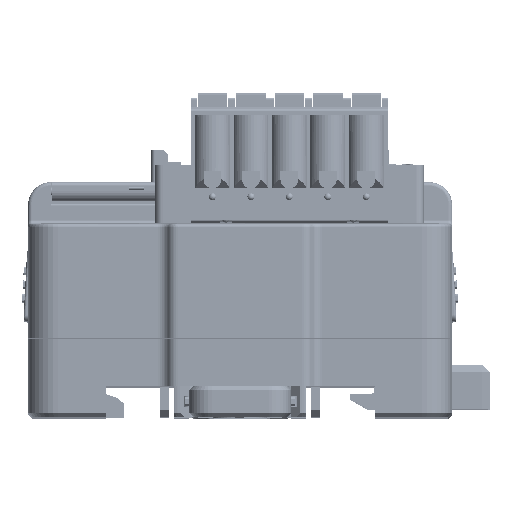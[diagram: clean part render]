
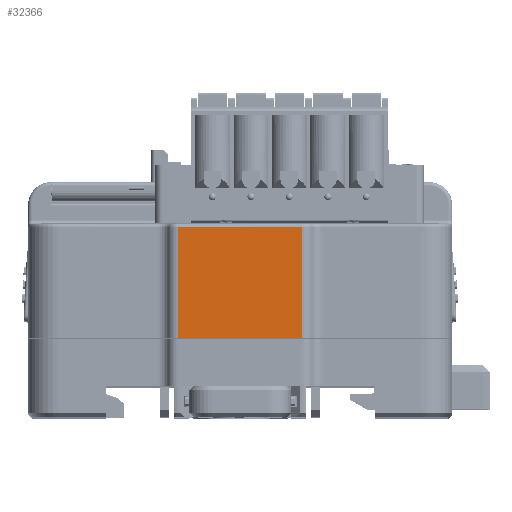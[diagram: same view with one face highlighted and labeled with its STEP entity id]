
A CAD part, top view. The second image highlights one B-rep face of the part: STEP entity #32366.
In plain terms, the highlighted planar face has unit normal (0, 0, 1).
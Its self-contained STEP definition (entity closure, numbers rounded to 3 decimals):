
#2456=B_SPLINE_CURVE_WITH_KNOTS('',3,(#469650,#469651,#469652,#469653),
 .UNSPECIFIED.,.F.,.F.,(4,4),(0.,1.),.UNSPECIFIED.);
#2457=B_SPLINE_CURVE_WITH_KNOTS('',1,(#469655,#469656,#469657,#469658,#469659,
#469660),.UNSPECIFIED.,.F.,.F.,(2,1,1,1,1,2),(0.,0.115,0.204,
0.796,0.885,1.),.UNSPECIFIED.);
#17303=PLANE('',#297467);
#32366=ADVANCED_FACE('',(#48759),#17303,.T.);
#48759=FACE_OUTER_BOUND('',#65241,.T.);
#65241=EDGE_LOOP('',(#205439,#205440,#205441,#205442));
#96373=LINE('',#467871,#128140);
#96713=LINE('',#469382,#128480);
#128140=VECTOR('',#368310,1.);
#128480=VECTOR('',#368982,1.);
#205439=ORIENTED_EDGE('',*,*,#270909,.T.);
#205440=ORIENTED_EDGE('',*,*,#270990,.F.);
#205441=ORIENTED_EDGE('',*,*,#270408,.F.);
#205442=ORIENTED_EDGE('',*,*,#270991,.T.);
#231720=VERTEX_POINT('',#467870);
#231721=VERTEX_POINT('',#467872);
#232149=VERTEX_POINT('',#469374);
#232150=VERTEX_POINT('',#469381);
#270408=EDGE_CURVE('',#231720,#231721,#96373,.T.);
#270909=EDGE_CURVE('',#232149,#232150,#96713,.T.);
#270990=EDGE_CURVE('',#231721,#232150,#2456,.T.);
#270991=EDGE_CURVE('',#231720,#232149,#2457,.T.);
#297467=AXIS2_PLACEMENT_3D('',#469661,#369184,#369185);
#368310=DIRECTION('',(-1.,0.,0.));
#368982=DIRECTION('',(-1.,0.,0.));
#369184=DIRECTION('',(0.,0.,1.));
#369185=DIRECTION('',(-1.,0.,0.));
#467870=CARTESIAN_POINT('',(-396.391,158.747,449.638));
#467871=CARTESIAN_POINT('',(-376.588,158.747,449.638));
#467872=CARTESIAN_POINT('',(-412.785,158.747,449.638));
#469374=CARTESIAN_POINT('',(-396.391,173.342,449.638));
#469381=CARTESIAN_POINT('',(-412.785,173.342,449.638));
#469382=CARTESIAN_POINT('',(-396.391,173.342,449.638));
#469650=CARTESIAN_POINT('',(-412.785,158.747,449.638));
#469651=CARTESIAN_POINT('',(-412.785,163.612,449.638));
#469652=CARTESIAN_POINT('',(-412.785,168.477,449.638));
#469653=CARTESIAN_POINT('',(-412.785,173.342,449.638));
#469655=CARTESIAN_POINT('',(-396.391,151.232,449.638));
#469656=CARTESIAN_POINT('',(-396.391,154.293,449.638));
#469657=CARTESIAN_POINT('',(-396.391,156.647,449.638));
#469658=CARTESIAN_POINT('',(-396.391,172.342,449.638));
#469659=CARTESIAN_POINT('',(-396.391,174.696,449.638));
#469660=CARTESIAN_POINT('',(-396.391,177.756,449.638));
#469661=CARTESIAN_POINT('',(-396.391,172.342,449.638));
